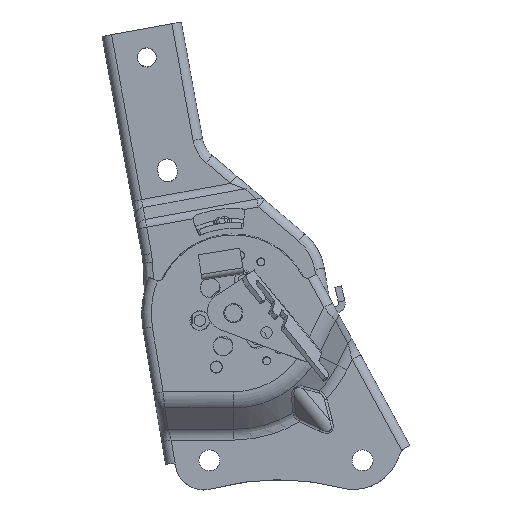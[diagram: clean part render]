
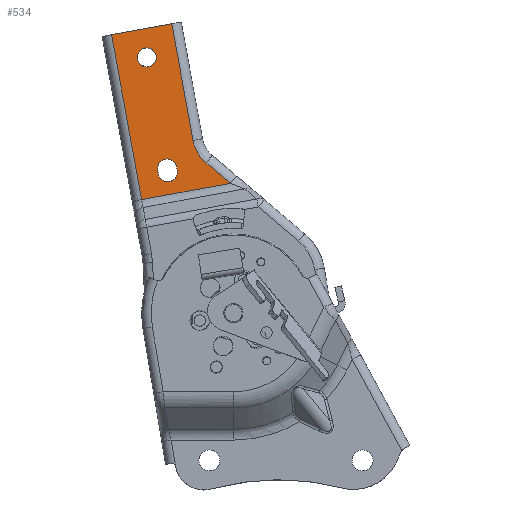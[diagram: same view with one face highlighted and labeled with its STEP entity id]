
A CAD part, front view. The second image highlights one B-rep face of the part: STEP entity #534.
In plain terms, the highlighted planar face has unit normal (0, -1, 0).
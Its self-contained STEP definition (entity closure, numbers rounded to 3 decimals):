
#385=AXIS2_PLACEMENT_3D('Plane Axis2P3D',#382,#383,#384) ;
#455=AXIS2_PLACEMENT_3D('Circle Axis2P3D',#453,#454,$) ;
#469=AXIS2_PLACEMENT_3D('Circle Axis2P3D',#467,#468,$) ;
#141=CARTESIAN_POINT('Vertex',(667.624,-912.204,539.121)) ;
#202=CARTESIAN_POINT('Line Origine',(649.4,-912.204,535.791)) ;
#206=CARTESIAN_POINT('Vertex',(621.255,-912.204,530.648)) ;
#343=CARTESIAN_POINT('Vertex',(654.87,-912.204,549.934)) ;
#346=CARTESIAN_POINT('Line Origine',(651.859,-912.204,552.487)) ;
#382=CARTESIAN_POINT('Axis2P3D Location',(669.214,-912.203,471.251)) ;
#387=CARTESIAN_POINT('Line Origine',(613.384,-912.205,573.716)) ;
#391=CARTESIAN_POINT('Vertex',(605.513,-912.206,616.784)) ;
#395=CARTESIAN_POINT('Control Point',(654.87,-912.204,549.934)) ;
#396=CARTESIAN_POINT('Control Point',(653.366,-912.204,551.209)) ;
#397=CARTESIAN_POINT('Control Point',(652.019,-912.204,552.67)) ;
#398=CARTESIAN_POINT('Control Point',(650.859,-912.204,554.29)) ;
#399=CARTESIAN_POINT('Control Point',(649.539,-912.204,556.723)) ;
#400=CARTESIAN_POINT('Control Point',(648.658,-912.204,559.328)) ;
#401=CARTESIAN_POINT('Control Point',(648.445,-912.204,560.075)) ;
#402=CARTESIAN_POINT('Control Point',(648.268,-912.204,560.831)) ;
#403=CARTESIAN_POINT('Control Point',(648.129,-912.204,561.594)) ;
#404=CARTESIAN_POINT('Vertex',(648.129,-912.204,561.594)) ;
#407=CARTESIAN_POINT('Line Origine',(642.56,-912.205,592.065)) ;
#411=CARTESIAN_POINT('Vertex',(636.991,-912.206,622.537)) ;
#414=CARTESIAN_POINT('Line Origine',(621.252,-912.206,619.66)) ;
#427=CARTESIAN_POINT('Line Origine',(639.556,-912.204,547.312)) ;
#431=CARTESIAN_POINT('Vertex',(639.639,-912.204,546.857)) ;
#433=CARTESIAN_POINT('Vertex',(639.472,-912.204,547.767)) ;
#437=CARTESIAN_POINT('Control Point',(639.666,-912.204,546.711)) ;
#438=CARTESIAN_POINT('Control Point',(639.661,-912.204,546.74)) ;
#439=CARTESIAN_POINT('Control Point',(639.656,-912.204,546.769)) ;
#440=CARTESIAN_POINT('Control Point',(639.651,-912.204,546.799)) ;
#441=CARTESIAN_POINT('Control Point',(639.645,-912.204,546.828)) ;
#442=CARTESIAN_POINT('Control Point',(639.639,-912.204,546.857)) ;
#443=CARTESIAN_POINT('Vertex',(639.666,-912.204,546.711)) ;
#446=CARTESIAN_POINT('Line Origine',(639.75,-912.204,546.256)) ;
#450=CARTESIAN_POINT('Vertex',(639.833,-912.204,545.8)) ;
#453=CARTESIAN_POINT('Axis2P3D Location',(634.915,-912.204,544.899)) ;
#457=CARTESIAN_POINT('Vertex',(629.997,-912.204,543.997)) ;
#460=CARTESIAN_POINT('Line Origine',(629.817,-912.204,544.981)) ;
#464=CARTESIAN_POINT('Vertex',(629.636,-912.204,545.964)) ;
#467=CARTESIAN_POINT('Axis2P3D Location',(634.554,-912.204,546.866)) ;
#481=CARTESIAN_POINT('Control Point',(628.932,-912.205,604.502)) ;
#482=CARTESIAN_POINT('Control Point',(628.888,-912.205,603.956)) ;
#483=CARTESIAN_POINT('Control Point',(628.769,-912.205,603.416)) ;
#484=CARTESIAN_POINT('Control Point',(628.577,-912.205,602.896)) ;
#485=CARTESIAN_POINT('Control Point',(628.054,-912.205,601.922)) ;
#486=CARTESIAN_POINT('Control Point',(627.289,-912.205,601.124)) ;
#487=CARTESIAN_POINT('Control Point',(626.854,-912.205,600.78)) ;
#488=CARTESIAN_POINT('Control Point',(625.9,-912.205,600.22)) ;
#489=CARTESIAN_POINT('Control Point',(624.831,-912.205,599.937)) ;
#490=CARTESIAN_POINT('Control Point',(624.281,-912.205,599.87)) ;
#491=CARTESIAN_POINT('Control Point',(623.175,-912.205,599.889)) ;
#492=CARTESIAN_POINT('Control Point',(622.116,-912.205,600.204)) ;
#493=CARTESIAN_POINT('Control Point',(621.61,-912.205,600.434)) ;
#494=CARTESIAN_POINT('Control Point',(620.677,-912.205,601.025)) ;
#495=CARTESIAN_POINT('Control Point',(619.936,-912.205,601.846)) ;
#496=CARTESIAN_POINT('Control Point',(619.624,-912.205,602.305)) ;
#497=CARTESIAN_POINT('Control Point',(619.2,-912.205,603.166)) ;
#498=CARTESIAN_POINT('Control Point',(618.989,-912.205,604.098)) ;
#499=CARTESIAN_POINT('Control Point',(618.94,-912.205,604.501)) ;
#500=CARTESIAN_POINT('Control Point',(618.932,-912.205,604.906)) ;
#501=CARTESIAN_POINT('Control Point',(618.965,-912.205,605.308)) ;
#502=CARTESIAN_POINT('Vertex',(628.932,-912.205,604.502)) ;
#504=CARTESIAN_POINT('Vertex',(618.965,-912.205,605.308)) ;
#508=CARTESIAN_POINT('Control Point',(628.932,-912.205,604.502)) ;
#509=CARTESIAN_POINT('Control Point',(628.976,-912.205,605.048)) ;
#510=CARTESIAN_POINT('Control Point',(628.946,-912.205,605.6)) ;
#511=CARTESIAN_POINT('Control Point',(628.839,-912.205,606.144)) ;
#512=CARTESIAN_POINT('Control Point',(628.48,-912.205,607.19)) ;
#513=CARTESIAN_POINT('Control Point',(627.853,-912.205,608.1)) ;
#514=CARTESIAN_POINT('Control Point',(627.478,-912.205,608.51)) ;
#515=CARTESIAN_POINT('Control Point',(626.627,-912.205,609.215)) ;
#516=CARTESIAN_POINT('Control Point',(625.618,-912.205,609.666)) ;
#517=CARTESIAN_POINT('Control Point',(625.085,-912.205,609.82)) ;
#518=CARTESIAN_POINT('Control Point',(623.991,-912.205,609.98)) ;
#519=CARTESIAN_POINT('Control Point',(622.895,-912.205,609.839)) ;
#520=CARTESIAN_POINT('Control Point',(622.359,-912.205,609.693)) ;
#521=CARTESIAN_POINT('Control Point',(621.342,-912.205,609.259)) ;
#522=CARTESIAN_POINT('Control Point',(620.479,-912.205,608.568)) ;
#523=CARTESIAN_POINT('Control Point',(620.098,-912.205,608.165)) ;
#524=CARTESIAN_POINT('Control Point',(619.541,-912.205,607.384)) ;
#525=CARTESIAN_POINT('Control Point',(619.183,-912.205,606.498)) ;
#526=CARTESIAN_POINT('Control Point',(619.07,-912.205,606.108)) ;
#527=CARTESIAN_POINT('Control Point',(618.997,-912.205,605.709)) ;
#528=CARTESIAN_POINT('Control Point',(618.965,-912.205,605.308)) ;
#203=DIRECTION('Vector Direction',(0.984,0.,0.18)) ;
#347=DIRECTION('Vector Direction',(0.763,0.,-0.647)) ;
#383=DIRECTION('Axis2P3D Direction',(0.,1.,0.)) ;
#384=DIRECTION('Axis2P3D XDirection',(-0.984,0.,-0.18)) ;
#388=DIRECTION('Vector Direction',(-0.18,0.,0.984)) ;
#408=DIRECTION('Vector Direction',(-0.18,0.,0.984)) ;
#415=DIRECTION('Vector Direction',(0.984,0.,0.18)) ;
#428=DIRECTION('Vector Direction',(-0.18,0.,0.984)) ;
#447=DIRECTION('Vector Direction',(-0.18,0.,0.984)) ;
#454=DIRECTION('Axis2P3D Direction',(0.,1.,0.)) ;
#461=DIRECTION('Vector Direction',(0.18,0.,-0.984)) ;
#468=DIRECTION('Axis2P3D Direction',(0.,1.,0.)) ;
#204=VECTOR('Line Direction',#203,1.) ;
#348=VECTOR('Line Direction',#347,1.) ;
#389=VECTOR('Line Direction',#388,1.) ;
#409=VECTOR('Line Direction',#408,1.) ;
#416=VECTOR('Line Direction',#415,1.) ;
#429=VECTOR('Line Direction',#428,1.) ;
#448=VECTOR('Line Direction',#447,1.) ;
#462=VECTOR('Line Direction',#461,1.) ;
#420=ORIENTED_EDGE('',*,*,#393,.T.) ;
#421=ORIENTED_EDGE('',*,*,#208,.F.) ;
#422=ORIENTED_EDGE('',*,*,#350,.F.) ;
#423=ORIENTED_EDGE('',*,*,#406,.T.) ;
#424=ORIENTED_EDGE('',*,*,#413,.T.) ;
#425=ORIENTED_EDGE('',*,*,#418,.F.) ;
#473=ORIENTED_EDGE('',*,*,#435,.F.) ;
#474=ORIENTED_EDGE('',*,*,#445,.F.) ;
#475=ORIENTED_EDGE('',*,*,#452,.F.) ;
#476=ORIENTED_EDGE('',*,*,#459,.T.) ;
#477=ORIENTED_EDGE('',*,*,#466,.F.) ;
#478=ORIENTED_EDGE('',*,*,#471,.T.) ;
#531=ORIENTED_EDGE('',*,*,#506,.T.) ;
#532=ORIENTED_EDGE('',*,*,#529,.F.) ;
#479=FACE_BOUND('',#472,.T.) ;
#533=FACE_BOUND('',#530,.T.) ;
#534=ADVANCED_FACE('\X2\8C0389D2566853F34E0A8FDE63A5677F603B6210\X0\\\\X2\8C0389D2566853F34E0A8FDE63A5677F\X0\.1\\\X2\51E04F554F53\X0\.2',(#426,#479,#533),#386,.F.) ;
#394=B_SPLINE_CURVE_WITH_KNOTS('',5,(#395,#396,#397,#398,#399,#400,#401,#402,#403),.UNSPECIFIED.,.F.,.U.,(6,3,6),(0.,13.969,19.463),.UNSPECIFIED.) ;
#436=B_SPLINE_CURVE_WITH_KNOTS('',5,(#437,#438,#439,#440,#441,#442),.UNSPECIFIED.,.F.,.U.,(6,6),(0.,0.21),.UNSPECIFIED.) ;
#480=B_SPLINE_CURVE_WITH_KNOTS('',5,(#481,#482,#483,#484,#485,#486,#487,#488,#489,#490,#491,#492,#493,#494,#495,#496,#497,#498,#499,#500,#501),.UNSPECIFIED.,.F.,.U.,(6,3,3,3,3,3,6),(0.,3.884,7.768,11.652,15.536,19.42,22.278),.UNSPECIFIED.) ;
#507=B_SPLINE_CURVE_WITH_KNOTS('',5,(#508,#509,#510,#511,#512,#513,#514,#515,#516,#517,#518,#519,#520,#521,#522,#523,#524,#525,#526,#527,#528),.UNSPECIFIED.,.F.,.U.,(6,3,3,3,3,3,6),(0.,3.884,7.768,11.652,15.536,19.42,22.278),.UNSPECIFIED.) ;
#456=CIRCLE('generated circle',#455,5.) ;
#470=CIRCLE('generated circle',#469,5.) ;
#208=EDGE_CURVE('',#142,#207,#205,.F.) ;
#350=EDGE_CURVE('',#344,#142,#349,.T.) ;
#393=EDGE_CURVE('',#392,#207,#390,.F.) ;
#406=EDGE_CURVE('',#344,#405,#394,.T.) ;
#413=EDGE_CURVE('',#405,#412,#410,.T.) ;
#418=EDGE_CURVE('',#392,#412,#417,.T.) ;
#435=EDGE_CURVE('',#432,#434,#430,.T.) ;
#445=EDGE_CURVE('',#444,#432,#436,.T.) ;
#452=EDGE_CURVE('',#451,#444,#449,.T.) ;
#459=EDGE_CURVE('',#451,#458,#456,.T.) ;
#466=EDGE_CURVE('',#465,#458,#463,.T.) ;
#471=EDGE_CURVE('',#465,#434,#470,.T.) ;
#506=EDGE_CURVE('',#503,#505,#480,.T.) ;
#529=EDGE_CURVE('',#503,#505,#507,.T.) ;
#419=EDGE_LOOP('',(#420,#421,#422,#423,#424,#425)) ;
#472=EDGE_LOOP('',(#473,#474,#475,#476,#477,#478)) ;
#530=EDGE_LOOP('',(#531,#532)) ;
#426=FACE_OUTER_BOUND('',#419,.T.) ;
#205=LINE('Line',#202,#204) ;
#349=LINE('Line',#346,#348) ;
#390=LINE('Line',#387,#389) ;
#410=LINE('Line',#407,#409) ;
#417=LINE('Line',#414,#416) ;
#430=LINE('Line',#427,#429) ;
#449=LINE('Line',#446,#448) ;
#463=LINE('Line',#460,#462) ;
#386=PLANE('Plane',#385) ;
#142=VERTEX_POINT('',#141) ;
#207=VERTEX_POINT('',#206) ;
#344=VERTEX_POINT('',#343) ;
#392=VERTEX_POINT('',#391) ;
#405=VERTEX_POINT('',#404) ;
#412=VERTEX_POINT('',#411) ;
#432=VERTEX_POINT('',#431) ;
#434=VERTEX_POINT('',#433) ;
#444=VERTEX_POINT('',#443) ;
#451=VERTEX_POINT('',#450) ;
#458=VERTEX_POINT('',#457) ;
#465=VERTEX_POINT('',#464) ;
#503=VERTEX_POINT('',#502) ;
#505=VERTEX_POINT('',#504) ;
